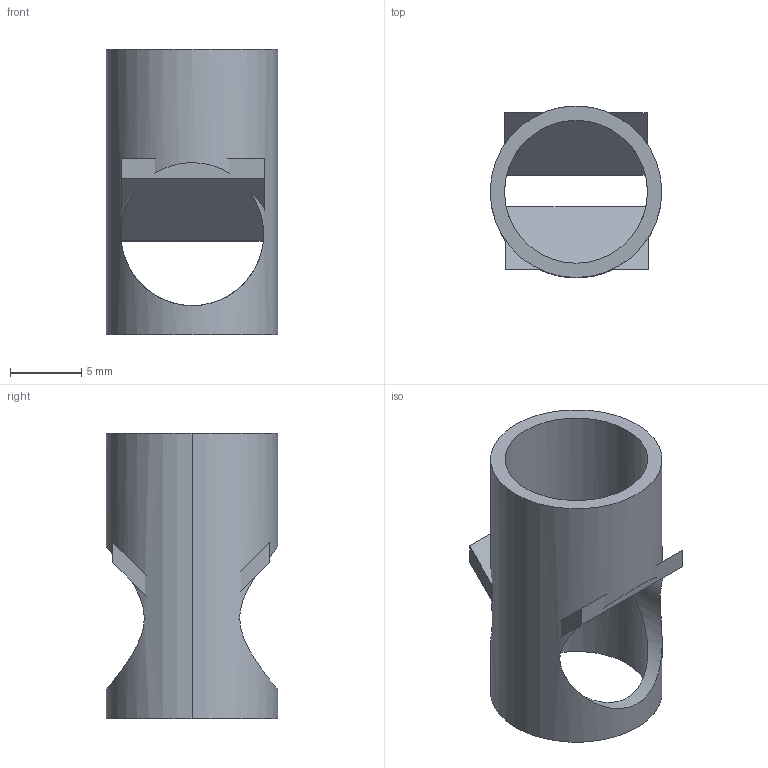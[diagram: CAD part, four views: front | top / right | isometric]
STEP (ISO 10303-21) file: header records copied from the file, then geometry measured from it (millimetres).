
FILE_DESCRIPTION(('Creo Elements/Direct Modeling STEP Export'),'2;1');
FILE_NAME('cross_splitter.stp','2014-11-28T23:41:12',(''),(''),'Creo Elements/Direct Modeling STEP processor for AP214 (Solid Model)','Creo Elements/Direct Modeling 18.1C 24-Feb-2013 (C) Parametric Technology GmbH','');
FILE_SCHEMA(('AUTOMOTIVE_DESIGN { 1 0 10303 214 1 1 1 1 }'));
Length unit declared in the file: millimetre
Products named in the file (6): Mirror1; Mirror2; tube
Assembly tree (3 placements, depth 2):
  Mirror1
    Mirror1
  Mirror2
    Mirror2
  tube
    tube
Bounding box: 12 x 12 x 20 mm (x, y, z)
Volume: 630 mm3; surface area: 1501.7 mm2
Topology: 3 solids, 3 shells, 20 faces, 51 edges, 35 vertices
Faces by surface type: plane 14, cylinder 6
Entity records: 3091 total; most frequent: CARTESIAN_POINT 2468, ORIENTED_EDGE 102, DIRECTION 92, EDGE_CURVE 51, VERTEX_POINT 35, AXIS2_PLACEMENT_3D 31, VECTOR 30, LINE 30
